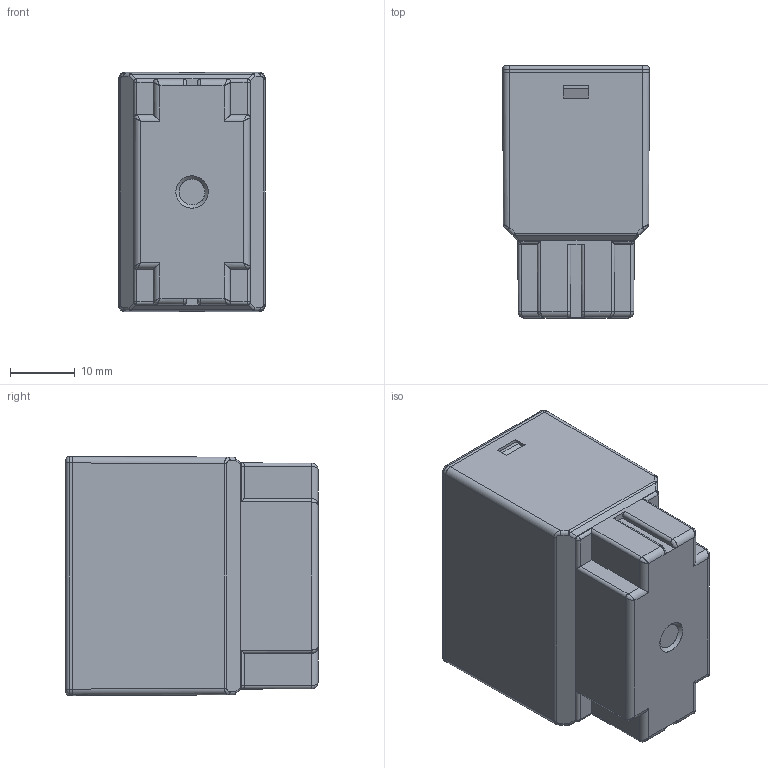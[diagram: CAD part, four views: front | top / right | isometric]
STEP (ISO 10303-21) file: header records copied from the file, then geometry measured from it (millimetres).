
FILE_DESCRIPTION(('STEP AP214'),'2;1');
FILE_NAME('13_91---catalogo_OK.stp','2011-02-15T09:53:53',(''),(''),'2007.1.106','THINKDESIGN','');
FILE_SCHEMA(('AUTOMOTIVE_DESIGN'));
Products named in the file (1): None
Bounding box: 22.7 x 39 x 37 mm (x, y, z)
Surface area: 8438.6 mm2 (no closed solid volume)
Topology: 0 solids, 0 shells, 543 faces, 3176 edges, 3119 vertices
Faces by surface type: plane 316, cylinder 118, bspline 109
Full cylindrical faces by diameter (mm): 4.2 x4
Entity records: 39566 total; most frequent: CARTESIAN_POINT 17694, DIRECTION 3578, COMPOSITE_CURVE_SEGMENT 3126, TRIMMED_CURVE 2562, VECTOR 2422, LINE 2422, AXIS2_PLACEMENT_3D 578, OUTER_BOUNDARY_CURVE 543
